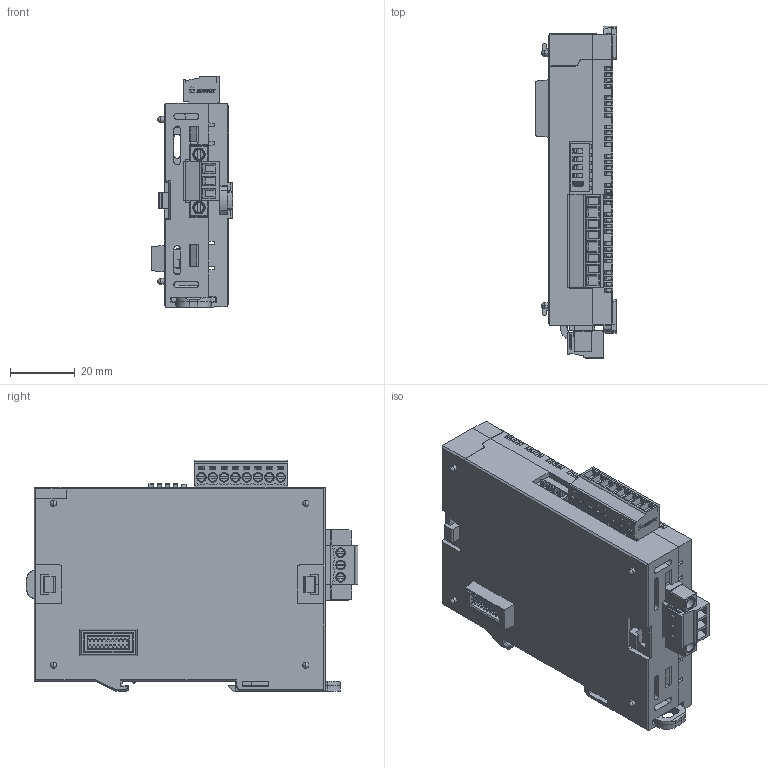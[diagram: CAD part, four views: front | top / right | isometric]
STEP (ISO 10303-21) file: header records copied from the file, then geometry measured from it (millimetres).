
FILE_DESCRIPTION (( 'STEP AP203' ), '1' );
FILE_NAME ('CM3-SP04EOAV_目池磐 器窃.STEP', '2025-10-20T07:48:33', ( '' ), ( '' ), 'SwSTEP 2.0', 'SolidWorks 2024', '' );
FILE_SCHEMA (( 'CONFIG_CONTROL_DESIGN' ));
Products named in the file (1): CM3-SP04EOAV_커넥터 포함
Bounding box: 25.3 x 102.61 x 71.6 mm (x, y, z)
Volume: 36678.8 mm3; surface area: 45240.3 mm2
Topology: 1 solids, 6 shells, 4880 faces, 13533 edges, 8728 vertices
Faces by surface type: plane 4138, cylinder 443, torus 150, cone 70, bspline 57, sphere 22
Entity records: 155013 total; most frequent: CARTESIAN_POINT 31416, ORIENTED_EDGE 27010, DIRECTION 23342, EDGE_CURVE 13505, VECTOR 11352, LINE 11352, VERTEX_POINT 8716, AXIS2_PLACEMENT_3D 5995
